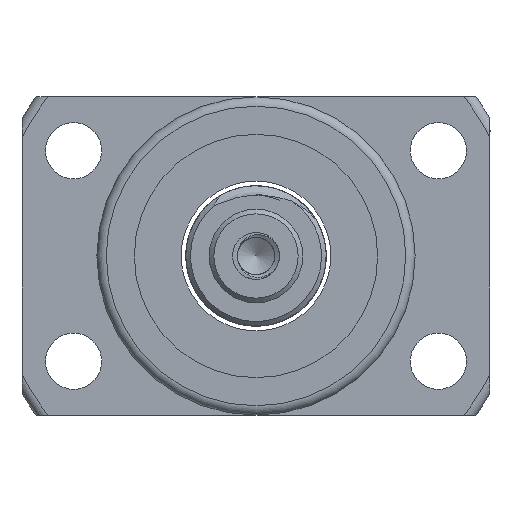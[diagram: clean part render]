
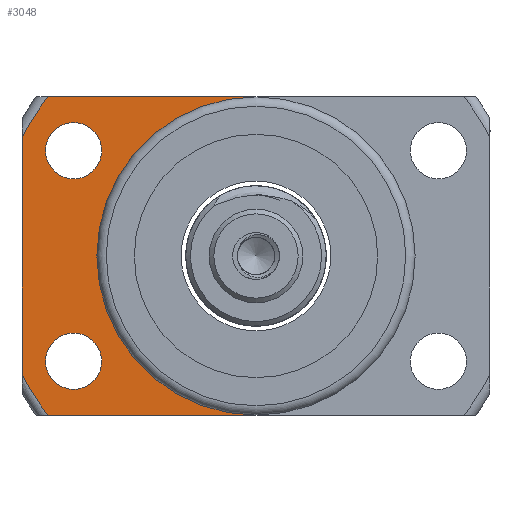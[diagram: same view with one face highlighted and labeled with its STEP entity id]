
A CAD part, left-side view. The second image highlights one B-rep face of the part: STEP entity #3048.
In plain terms, the highlighted planar face has unit normal (-1, 0, 0).
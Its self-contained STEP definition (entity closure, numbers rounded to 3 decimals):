
#145 = VERTEX_POINT ( 'NONE', #5046 ) ;
#271 = DIRECTION ( 'NONE',  ( 0., 1., 0. ) ) ;
#293 = VECTOR ( 'NONE', #3806, 1000. ) ;
#347 = DIRECTION ( 'NONE',  ( -1., 0., 0. ) ) ;
#619 = FACE_OUTER_BOUND ( 'NONE', #11252, .T. ) ;
#726 = CARTESIAN_POINT ( 'NONE',  ( -91.905, 22.5, 17. ) ) ;
#937 = CIRCLE ( 'NONE', #12285, 28. ) ;
#1209 = DIRECTION ( 'NONE',  ( 0., -1., 0. ) ) ;
#1217 = LINE ( 'NONE', #5051, #3146 ) ;
#1537 = CIRCLE ( 'NONE', #3150, 17. ) ;
#1821 = CARTESIAN_POINT ( 'NONE',  ( -91.905, 22.5, 0. ) ) ;
#1867 = EDGE_LOOP ( 'NONE', ( #8180 ) ) ;
#2008 = VERTEX_POINT ( 'NONE', #5835 ) ;
#2158 = ORIENTED_EDGE ( 'NONE', *, *, #6668, .T. ) ;
#2203 = EDGE_CURVE ( 'NONE', #9064, #5621, #1537, .T. ) ;
#2216 = CARTESIAN_POINT ( 'NONE',  ( -91.905, 0., 0. ) ) ;
#2273 = CARTESIAN_POINT ( 'NONE',  ( -91.905, 25., 12.61 ) ) ;
#2342 = VERTEX_POINT ( 'NONE', #2273 ) ;
#2478 = LINE ( 'NONE', #726, #6944 ) ;
#2499 = CARTESIAN_POINT ( 'NONE',  ( -91.905, 16.485, 11.25 ) ) ;
#2529 = AXIS2_PLACEMENT_3D ( 'NONE', #3308, #3248, #5131 ) ;
#2537 = CIRCLE ( 'NONE', #5333, 3. ) ;
#2701 = DIRECTION ( 'NONE',  ( -1., 0., 0. ) ) ;
#3048 = ADVANCED_FACE ( 'NONE', ( #5393, #9212, #619 ), #5328, .T. ) ;
#3146 = VECTOR ( 'NONE', #271, 1000. ) ;
#3150 = AXIS2_PLACEMENT_3D ( 'NONE', #2216, #12335, #1209 ) ;
#3163 = ORIENTED_EDGE ( 'NONE', *, *, #2203, .F. ) ;
#3248 = DIRECTION ( 'NONE',  ( -1., 0., 0. ) ) ;
#3308 = CARTESIAN_POINT ( 'NONE',  ( -91.905, 0., 0. ) ) ;
#3336 = ORIENTED_EDGE ( 'NONE', *, *, #10341, .F. ) ;
#3610 = ORIENTED_EDGE ( 'NONE', *, *, #4156, .T. ) ;
#3806 = DIRECTION ( 'NONE',  ( 0., 0., -1. ) ) ;
#3842 = EDGE_CURVE ( 'NONE', #5621, #6988, #1217, .T. ) ;
#3868 = CARTESIAN_POINT ( 'NONE',  ( -91.905, 25., 0. ) ) ;
#4064 = EDGE_CURVE ( 'NONE', #8211, #8211, #2537, .T. ) ;
#4141 = DIRECTION ( 'NONE',  ( 0., -1., 0. ) ) ;
#4156 = EDGE_CURVE ( 'NONE', #9064, #8878, #2478, .T. ) ;
#4622 = ORIENTED_EDGE ( 'NONE', *, *, #12010, .T. ) ;
#5046 = CARTESIAN_POINT ( 'NONE',  ( -91.905, 25., -12.61 ) ) ;
#5051 = CARTESIAN_POINT ( 'NONE',  ( -91.905, 22.5, -17. ) ) ;
#5131 = DIRECTION ( 'NONE',  ( 0., -1., 0. ) ) ;
#5328 = PLANE ( 'NONE',  #11729 ) ;
#5333 = AXIS2_PLACEMENT_3D ( 'NONE', #8941, #347, #6124 ) ;
#5393 = FACE_BOUND ( 'NONE', #6627, .T. ) ;
#5621 = VERTEX_POINT ( 'NONE', #9417 ) ;
#5835 = CARTESIAN_POINT ( 'NONE',  ( -91.905, 16.485, -11.25 ) ) ;
#6124 = DIRECTION ( 'NONE',  ( 0., -1., 0. ) ) ;
#6195 = CARTESIAN_POINT ( 'NONE',  ( -91.905, 0., 0. ) ) ;
#6246 = CARTESIAN_POINT ( 'NONE',  ( -91.905, 0., 17. ) ) ;
#6627 = EDGE_LOOP ( 'NONE', ( #3336 ) ) ;
#6668 = EDGE_CURVE ( 'NONE', #145, #6988, #6754, .T. ) ;
#6754 = CIRCLE ( 'NONE', #2529, 28. ) ;
#6944 = VECTOR ( 'NONE', #10128, 1000. ) ;
#6955 = EDGE_CURVE ( 'NONE', #8878, #2342, #937, .T. ) ;
#6988 = VERTEX_POINT ( 'NONE', #11772 ) ;
#7162 = ORIENTED_EDGE ( 'NONE', *, *, #3842, .F. ) ;
#7475 = DIRECTION ( 'NONE',  ( 0., 0., 1. ) ) ;
#7599 = DIRECTION ( 'NONE',  ( 0., -1., 0. ) ) ;
#8180 = ORIENTED_EDGE ( 'NONE', *, *, #4064, .F. ) ;
#8211 = VERTEX_POINT ( 'NONE', #2499 ) ;
#8661 = CARTESIAN_POINT ( 'NONE',  ( -91.905, 19.485, -11.25 ) ) ;
#8878 = VERTEX_POINT ( 'NONE', #10061 ) ;
#8895 = DIRECTION ( 'NONE',  ( -1., 0., 0. ) ) ;
#8941 = CARTESIAN_POINT ( 'NONE',  ( -91.905, 19.485, 11.25 ) ) ;
#9064 = VERTEX_POINT ( 'NONE', #6246 ) ;
#9181 = CIRCLE ( 'NONE', #10598, 3. ) ;
#9212 = FACE_BOUND ( 'NONE', #1867, .T. ) ;
#9417 = CARTESIAN_POINT ( 'NONE',  ( -91.905, 0., -17. ) ) ;
#10052 = ORIENTED_EDGE ( 'NONE', *, *, #6955, .T. ) ;
#10061 = CARTESIAN_POINT ( 'NONE',  ( -91.905, 22.249, 17. ) ) ;
#10128 = DIRECTION ( 'NONE',  ( 0., 1., 0. ) ) ;
#10341 = EDGE_CURVE ( 'NONE', #2008, #2008, #9181, .T. ) ;
#10598 = AXIS2_PLACEMENT_3D ( 'NONE', #8661, #12415, #7599 ) ;
#10677 = LINE ( 'NONE', #3868, #293 ) ;
#11252 = EDGE_LOOP ( 'NONE', ( #3163, #3610, #10052, #4622, #2158, #7162 ) ) ;
#11729 = AXIS2_PLACEMENT_3D ( 'NONE', #1821, #2701, #7475 ) ;
#11772 = CARTESIAN_POINT ( 'NONE',  ( -91.905, 22.249, -17. ) ) ;
#12010 = EDGE_CURVE ( 'NONE', #2342, #145, #10677, .T. ) ;
#12285 = AXIS2_PLACEMENT_3D ( 'NONE', #6195, #8895, #4141 ) ;
#12335 = DIRECTION ( 'NONE',  ( -1., 0., 0. ) ) ;
#12415 = DIRECTION ( 'NONE',  ( -1., 0., 0. ) ) ;
